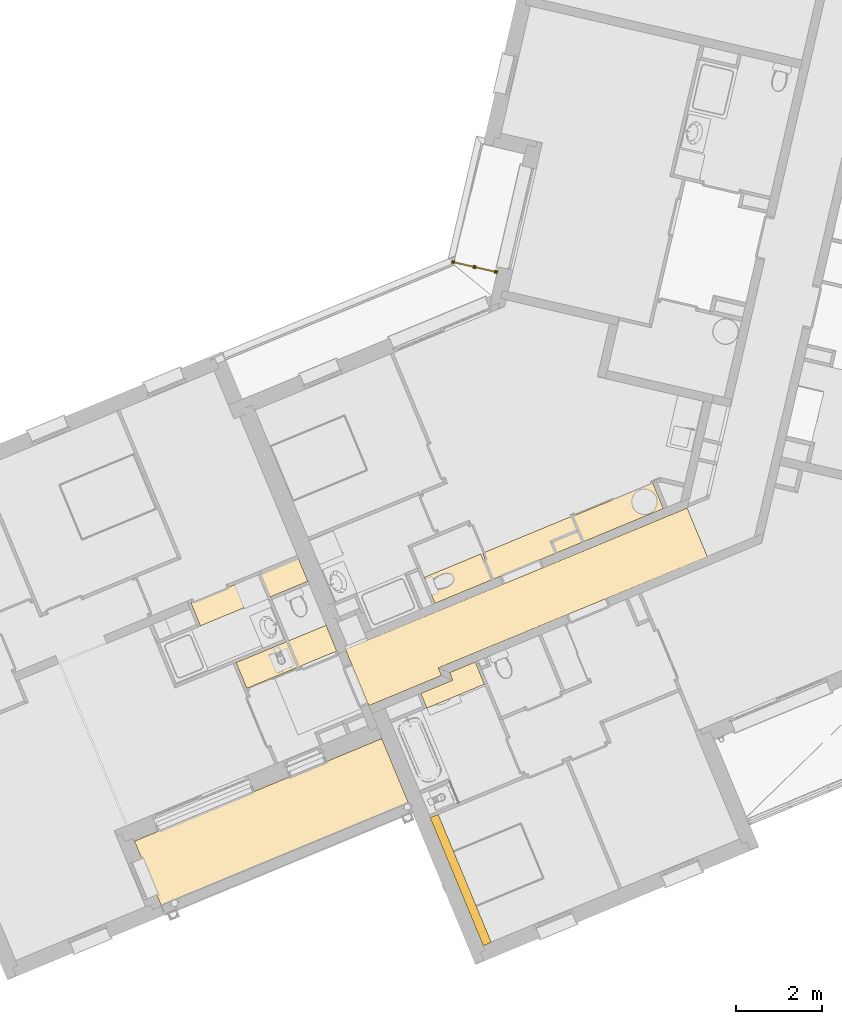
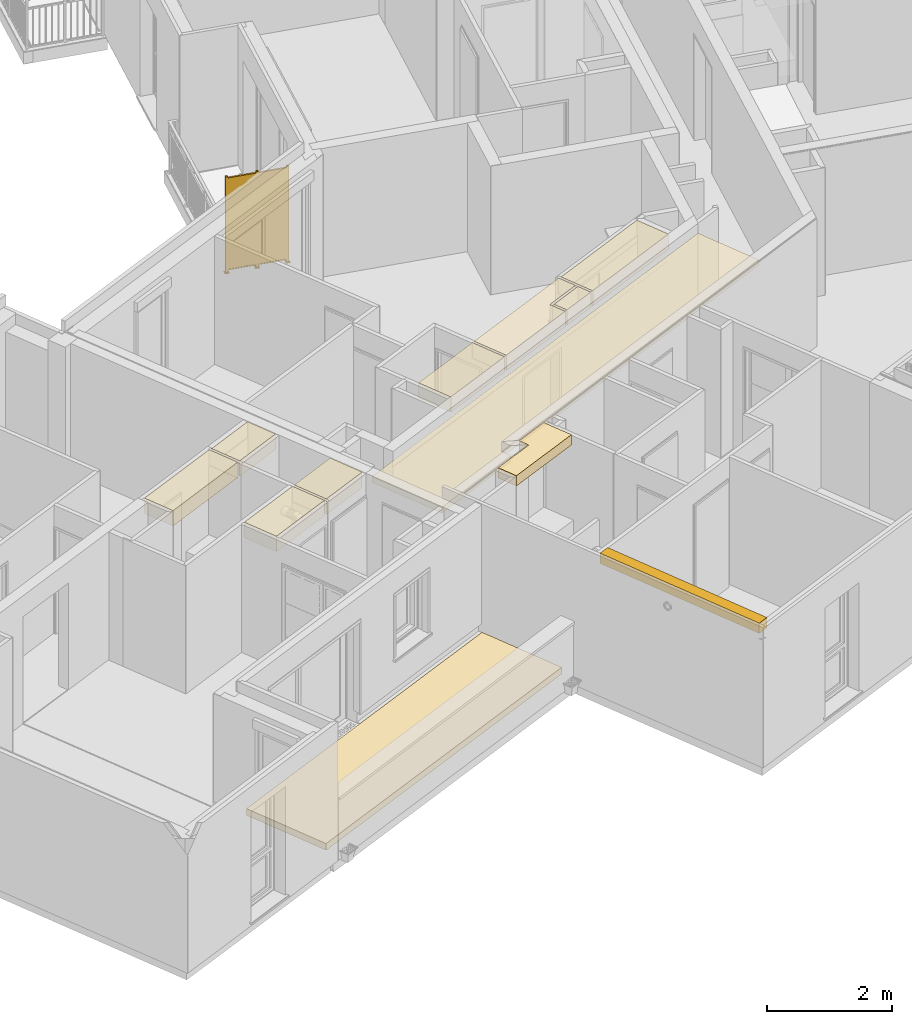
# One storey, part 57 of 91: 7 coverings, 1 railing.
"""IFC2X3 building model written with IfcOpenShell, lengths in metres."""

from ifc_helpers import new_model, entity, si_unit, converted_unit, derived_unit, money_unit, direction, frame, origin_with_axes, place, context, subcontext, project, spatial, faceted_brep, material, material_list, type_object, element, save


model = new_model("IFC2X3")

# Units and contexts
model_context = context("Model", 3, precision=1e-05, world=origin_with_axes(), true_north=direction((0.0, 1.0)))
body_context = subcontext(model_context, "Body", "Model", "MODEL_VIEW")
ifc_project = project(units=[si_unit("LENGTHUNIT", "METRE"), si_unit("AREAUNIT", "SQUARE_METRE"), si_unit("VOLUMEUNIT", "CUBIC_METRE"), converted_unit("PLANEANGLEUNIT", "DEGREE", entity("IfcPlaneAngleMeasure", 0.0174532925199), si_unit("PLANEANGLEUNIT", "RADIAN"), dimensions=[0, 0, 0, 0, 0, 0, 0]), si_unit("SOLIDANGLEUNIT", "STERADIAN"), money_unit("EUR"), converted_unit("TIMEUNIT", "Year", entity("IfcTimeMeasure", 31556926.0), si_unit("TIMEUNIT", "SECOND"), dimensions=[0, 0, 1, 0, 0, 0, 0]), si_unit("MASSUNIT", "GRAM", prefix="KILO"), si_unit("THERMODYNAMICTEMPERATUREUNIT", "DEGREE_CELSIUS"), si_unit("LUMINOUSINTENSITYUNIT", "LUMEN"), si_unit("ENERGYUNIT", "JOULE", prefix="MEGA"), derived_unit("THERMALCONDUCTANCEUNIT", [(si_unit("POWERUNIT", "WATT"), 1), (si_unit("LENGTHUNIT", "METRE"), -1), (si_unit("THERMODYNAMICTEMPERATUREUNIT", "KELVIN"), -1)]), derived_unit("SPECIFICHEATCAPACITYUNIT", [(si_unit("ENERGYUNIT", "JOULE"), 1), (si_unit("MASSUNIT", "GRAM", prefix="KILO"), -1), (si_unit("THERMODYNAMICTEMPERATUREUNIT", "KELVIN"), -1)]), derived_unit("MASSDENSITYUNIT", [(si_unit("MASSUNIT", "GRAM", prefix="KILO"), 1), (si_unit("VOLUMEUNIT", "CUBIC_METRE"), -1)])], contexts=[model_context])

# Site, building, storey
site_placement = place(None, origin_with_axes())
site = spatial("IfcSite", under=ifc_project, at=site_placement, Name="Site", CompositionType="ELEMENT")
building_placement = place(site_placement, origin_with_axes())
building = spatial("IfcBuilding", under=site, at=building_placement, Name="Bâtiment", CompositionType="ELEMENT")
storey_placement = place(building_placement, frame((0.0, 0.0, 5.44), z_axis=(0.0, 0.0, 1.0), x_axis=(1.0, 0.0, 0.0)))
storey = spatial("IfcBuildingStorey", under=building, at=storey_placement, Name="R+2", CompositionType="ELEMENT", Elevation=5.44)

# Coverings
ifc_material_1 = material(Name="Finition int - Plaque de plâtre")
covering_type_1 = type_object("IfcCoveringType", Name="Finition int - Plaque de plâtre 200", PredefinedType="CEILING")
covering_1_placement = place(storey_placement, frame((-21.2015068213, -24.8366893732, 2.5), z_axis=(0.0, 0.0, 1.0), x_axis=(1.0, 0.0, 0.0)))
element("IfcCovering", 1, at=covering_1_placement, inside=storey, type_object=covering_type_1, material=ifc_material_1, Name="Dalle_003", PredefinedType="CEILING", context=body_context, shape_type="Brep", body=[
    faceted_brep([(1.22787570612, -2.96046385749, 0.0), (0.0, 0.0, 0.0), (0.0, 0.0, -0.2), (1.22787570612, -2.96046385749, -0.2), (1.41261604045, -2.88384134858, 0.0), (0.184740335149, 0.0766225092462, 0.0), (0.184740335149, 0.0766225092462, -0.2), (1.41261604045, -2.88384134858, -0.2)], [[[0, 1, 2, 3]], [[4, 5, 1, 0]], [[1, 5, 6, 2]], [[7, 3, 2, 6]], [[4, 0, 3, 7]], [[5, 4, 7, 6]]]),
])
covering_2_placement = place(storey_placement, frame((-21.4111363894, -21.9552514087, 2.5), z_axis=(0.0, 0.0, 1.0), x_axis=(1.0, 0.0, 0.0)))
element("IfcCovering", 2, at=covering_2_placement, inside=storey, type_object=covering_type_1, material=ifc_material_1, Name="Dalle_003", PredefinedType="CEILING", context=body_context, shape_type="Brep", body=[
    faceted_brep([(-0.00949551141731, -0.00393834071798, 0.0), (-0.00949551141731, -0.00393834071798, -0.2), (0.131451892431, -0.343768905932, -0.2), (0.131451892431, -0.343768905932, 0.0), (0.729465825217, 0.302551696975, 0.0), (0.729465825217, 0.302551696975, -0.2), (0.656674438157, 0.47805502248, -0.2), (1.25061461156, 0.724396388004, -0.2), (1.46435340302, 0.209062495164, -0.2), (1.46435340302, 0.209062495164, 0.0), (1.25061461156, 0.724396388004, 0.0), (0.656674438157, 0.47805502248, 0.0)], [[[0, 1, 2, 3]], [[4, 5, 1, 0]], [[1, 5, 6, 7, 8, 2]], [[3, 2, 8, 9]], [[4, 0, 3, 9, 10, 11]], [[11, 6, 5, 4]], [[10, 7, 6, 11]], [[9, 8, 7, 10]]]),
])
ifc_material_2 = material(Name="Divers - Vide")
ifc_material_list_1 = material_list([ifc_material_2, ifc_material_1])
covering_type_2 = type_object("IfcCoveringType", Name="7 - Faux-plafond BA13  113", PredefinedType="CEILING")
covering_3_placement = place(storey_placement, frame((-23.1643591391, -20.9394273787, 2.32), z_axis=(0.0, 0.0, 1.0), x_axis=(1.0, 0.0, 0.0)))
element("IfcCovering", 3, at=covering_3_placement, inside=storey, type_object=covering_type_2, material=ifc_material_list_1, Name="Dalle_004", PredefinedType="CEILING", context=body_context, shape_type="Brep", body=[
    faceted_brep([(0.0, 0.0, -0.1), (0.540188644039, -1.3024193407, -0.1), (0.540188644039, -1.3024193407, 0.0), (0.0, 0.0, 0.0), (7.90866426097, 3.26936123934, -0.1), (8.37606384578, 2.14243973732, -0.1), (2.14853436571, -0.429651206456, -0.1), (2.22132567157, -0.605154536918, -0.1), (2.22132567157, -0.605154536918, 0.0), (7.90866426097, 3.26936123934, 0.0), (2.14853436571, -0.429651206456, 0.0), (8.37606384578, 2.14243973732, 0.0)], [[[0, 1, 2, 3]], [[1, 0, 4, 5, 6, 7]], [[1, 7, 8, 2]], [[9, 3, 2, 8, 10, 11]], [[4, 0, 3, 9]], [[5, 4, 9, 11]], [[6, 5, 11, 10]], [[7, 6, 10, 8]]]),
    faceted_brep([(0.0, 0.0, -0.1), (0.0, 0.0, -0.113), (0.540188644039, -1.3024193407, -0.113), (0.540188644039, -1.3024193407, -0.1), (7.90866426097, 3.26936123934, -0.1), (7.90866426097, 3.26936123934, -0.113), (8.37606384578, 2.14243973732, -0.113), (2.14853436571, -0.429651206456, -0.113), (2.22132567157, -0.605154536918, -0.113), (2.22132567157, -0.605154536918, -0.1), (2.14853436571, -0.429651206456, -0.1), (8.37606384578, 2.14243973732, -0.1)], [[[0, 1, 2, 3]], [[4, 5, 1, 0]], [[2, 1, 5, 6, 7, 8]], [[3, 2, 8, 9]], [[4, 0, 3, 9, 10, 11]], [[11, 6, 5, 4]], [[10, 7, 6, 11]], [[9, 8, 7, 10]]]),
])
covering_type_3 = type_object("IfcCoveringType", Name="Finition int - Plaque de plâtre 300", PredefinedType="CEILING")
covering_4_placement = place(storey_placement, frame((-21.3394909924, -19.2731644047, 2.5), z_axis=(0.0, 0.0, 1.0), x_axis=(1.0, 0.0, 0.0)))
element("IfcCovering", 4, at=covering_4_placement, inside=storey, type_object=covering_type_3, material=ifc_material_1, Name="Dalle_003", PredefinedType="CEILING", context=body_context, shape_type="Brep", body=[
    faceted_brep([(0.249023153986, -0.600406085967, -0.3), (1.55421361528, -0.0590680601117, -0.3), (1.55421361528, -0.0590680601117, 0.0), (0.249023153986, -0.600406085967, 0.0), (0.0, 0.0, -0.3), (1.30519046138, 0.541338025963, -0.3), (1.30519046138, 0.541338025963, 0.0), (0.0, 0.0, 0.0)], [[[0, 1, 2, 3]], [[4, 5, 1, 0]], [[5, 6, 2, 1]], [[3, 2, 6, 7]], [[3, 7, 4, 0]], [[7, 6, 5, 4]]]),
    faceted_brep([(1.59855129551, -0.0406786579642, -0.3), (3.02659407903, 0.551613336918, -0.3), (3.02659407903, 0.551613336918, 0.0), (1.59855129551, -0.0406786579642, 0.0), (2.90744607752, 0.838884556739, -0.3), (2.92583547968, 0.79454687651, -0.3), (1.34952814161, 0.559727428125, -0.3), (3.40014585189, 1.41023727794, -0.3), (3.53002100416, 1.09710241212, -0.3), (2.92583547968, 0.79454687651, 0.0), (2.90744607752, 0.838884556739, 0.0), (3.53002100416, 1.09710241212, 0.0), (3.40014585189, 1.41023727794, 0.0), (1.34952814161, 0.559727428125, 0.0)], [[[0, 1, 2, 3]], [[4, 5, 1, 0, 6, 7, 8]], [[5, 9, 2, 1]], [[3, 2, 9, 10, 11, 12, 13]], [[6, 0, 3, 13]], [[10, 9, 5, 4]], [[13, 12, 7, 6]], [[12, 11, 8, 7]], [[4, 8, 11, 10]]]),
    faceted_brep([(5.53265798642, 1.59102308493, -0.3), (5.28784907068, 2.1812684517, -0.3), (5.28784907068, 2.1812684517, 0.0), (5.53265798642, 1.59102308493, 0.0), (3.69350668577, 0.828220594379, -0.3), (3.44869776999, 1.41846596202, -0.3), (3.44869776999, 1.41846596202, 0.0), (3.69350668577, 0.828220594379, 0.0)], [[[0, 1, 2, 3]], [[4, 5, 1, 0]], [[5, 6, 2, 1]], [[3, 2, 6, 7]], [[3, 7, 4, 0]], [[7, 6, 5, 4]]]),
    faceted_brep([(3.5484104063, 1.05276473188, 0.0), (2.97017315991, 0.812936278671, 0.0), (3.07093175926, 0.570002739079, 0.0), (3.64916900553, 0.809831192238, 0.0), (3.5484104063, 1.05276473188, -0.3), (2.97017315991, 0.812936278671, -0.3), (3.07093175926, 0.570002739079, -0.3), (3.64916900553, 0.809831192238, -0.3)], [[[0, 1, 2, 3]], [[4, 5, 1, 0]], [[5, 6, 2, 1]], [[3, 2, 6, 7]], [[7, 4, 0, 3]], [[7, 6, 5, 4]]]),
])
covering_5_placement = place(storey_placement, frame((-25.6941485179, -21.2454192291, 2.5), z_axis=(0.0, 0.0, 1.0), x_axis=(1.0, 0.0, 0.0)))
element("IfcCovering", 5, at=covering_5_placement, inside=storey, type_object=covering_type_3, material=ifc_material_1, Name="Dalle_003", PredefinedType="CEILING", context=body_context, shape_type="Brep", body=[
    faceted_brep([(0.247035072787, -0.59561273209, -0.3), (1.41367028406, -0.111741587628, -0.3), (1.41367028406, -0.111741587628, 0.0), (0.247035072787, -0.59561273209, 0.0), (0.0, 0.0, -0.3), (1.16663521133, 0.483871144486, -0.3), (1.16663521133, 0.483871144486, 0.0), (0.0, 0.0, 0.0)], [[[0, 1, 2, 3]], [[4, 5, 1, 0]], [[5, 6, 2, 1]], [[3, 2, 6, 7]], [[3, 7, 4, 0]], [[7, 6, 5, 4]]]),
    faceted_brep([(2.08202356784, 0.863535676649, 0.0), (1.21097289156, 0.502260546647, 0.0), (1.45800796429, -0.0933521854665, 0.0), (2.32905864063, 0.26792294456, 0.0), (2.08202356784, 0.863535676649, -0.3), (1.21097289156, 0.502260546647, -0.3), (1.45800796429, -0.0933521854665, -0.3), (2.32905864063, 0.26792294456, -0.3)], [[[0, 1, 2, 3]], [[4, 5, 1, 0]], [[5, 6, 2, 1]], [[3, 2, 6, 7]], [[0, 3, 7, 4]], [[7, 6, 5, 4]]]),
])
covering_6_placement = place(storey_placement, frame((-26.7413488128, -19.8638391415, 2.5), z_axis=(0.0, 0.0, 1.0), x_axis=(1.0, 0.0, 0.0)))
element("IfcCovering", 6, at=covering_6_placement, inside=storey, type_object=covering_type_3, material=ifc_material_1, Name="Dalle_003", PredefinedType="CEILING", context=body_context, shape_type="Brep", body=[
    faceted_brep([(0.220672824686, -0.532052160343, -0.3), (1.79188936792, 0.119622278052, -0.3), (1.79188936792, 0.119622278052, 0.0), (0.220672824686, -0.532052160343, 0.0), (0.0, 0.0, -0.3), (1.57121654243, 0.651674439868, -0.3), (1.57121654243, 0.651674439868, 0.0), (0.0, 0.0, 0.0)], [[[0, 1, 2, 3]], [[4, 5, 1, 0]], [[5, 6, 2, 1]], [[3, 2, 6, 7]], [[3, 7, 4, 0]], [[7, 6, 5, 4]]]),
    faceted_brep([(1.62756234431, 0.67504430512, 0.0), (1.61555422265, 0.670063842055, 0.0), (1.83622704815, 0.138011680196, 0.0), (2.70727772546, 0.499286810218, 0.0), (2.49158536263, 1.01933085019, 0.0), (1.63254280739, 0.663036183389, 0.0), (1.62756234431, 0.67504430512, -0.3), (1.61555422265, 0.670063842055, -0.3), (1.83622704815, 0.138011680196, -0.3), (2.70727772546, 0.499286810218, -0.3), (2.49158536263, 1.01933085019, -0.3), (1.63254280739, 0.663036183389, -0.3)], [[[0, 1, 2, 3, 4, 5]], [[6, 7, 1, 0]], [[7, 8, 2, 1]], [[3, 2, 8, 9]], [[9, 10, 4, 3]], [[11, 5, 4, 10]], [[6, 0, 5, 11]], [[9, 8, 7, 6, 11, 10]]]),
])
ifc_material_3 = material(Name="Finition sol - Dalles terrasse")
ifc_material_list_2 = material_list([ifc_material_3, ifc_material_2])
covering_type_4 = type_object("IfcCoveringType", Name="6 -Dalles sur plots 130", PredefinedType="INSULATION")
covering_7_placement = place(storey_placement, frame((-28.0582424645, -25.3835528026, 0.24), z_axis=(0.0, 0.0, 1.0), x_axis=(1.0, 0.0, 0.0)))
element("IfcCovering", 7, at=covering_7_placement, inside=storey, type_object=covering_type_4, material=ifc_material_list_2, Name="Dalle_004", PredefinedType="INSULATION", context=body_context, shape_type="Brep", body=[
    faceted_brep([(6.35001699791, 0.894168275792, -0.05), (6.35001699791, 0.894168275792, 0.0), (0.62945091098, -1.47848157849, 0.0), (0.62945091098, -1.47848157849, -0.05), (5.73442163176, 2.37839654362, 0.0), (5.73442163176, 2.37839654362, -0.05), (0.0138555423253, 0.00574669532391, 9.76171143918e-10), (0.0138555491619, 0.00574667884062, -0.00499999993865), (0.01385554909, 0.00574667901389, -0.04), (0.0138555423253, 0.00574669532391, -0.05)], [[[0, 1, 2, 3]], [[4, 1, 0, 5]], [[1, 4, 6, 2]], [[3, 2, 6, 7, 8, 9]], [[5, 0, 3, 9]], [[4, 5, 9, 8, 7, 6]]]),
    faceted_brep([(6.35001699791, 0.894168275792, -0.13), (6.35001699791, 0.894168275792, -0.05), (0.62945091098, -1.47848157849, -0.05), (0.62945091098, -1.47848157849, -0.13), (5.73442163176, 2.37839654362, -0.05), (5.73442163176, 2.37839654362, -0.13), (0.0138555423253, 0.00574669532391, -0.05), (0.0138555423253, 0.00574669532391, -0.13)], [[[0, 1, 2, 3]], [[4, 1, 0, 5]], [[1, 4, 6, 2]], [[3, 2, 6, 7]], [[5, 0, 3, 7]], [[4, 5, 7, 6]]]),
])

# Railing
ifc_material_4 = material(Name="Métal - Acier")
ifc_material_5 = material(Name="Métal - Acier inoxidable")
ifc_material_6 = material(Name="Vitrage")
ifc_material_list_3 = material_list([ifc_material_4, ifc_material_4, ifc_material_5, ifc_material_6, ifc_material_4, ifc_material_5, ifc_material_6])
railing_type = type_object("IfcRailingType", Name="Type de garde-corps", PredefinedType="NOTDEFINED")
railing_placement = place(storey_placement, frame((-20.6060746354, -12.001900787, -0.00531189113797), z_axis=(0.0, 0.0, 1.0), x_axis=(0.997532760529, -0.0702025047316, 0.0)))
element("IfcRailing", 8, at=railing_placement, inside=storey, type_object=railing_type, material=ifc_material_list_3, Name="Pare-vue acier laqué+verre dépoli H=190", PredefinedType="NOTDEFINED", context=body_context, shape_type="Brep", body=[
    faceted_brep([(-0.0505157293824, 0.0333260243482, 0.01), (-0.0551932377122, 0.0036929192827, 0.01), (-0.0551932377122, 0.0036929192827, 1.88), (-0.0505157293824, 0.0333260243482, 1.88), (-0.0447972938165, 0.0374852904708, 0.01), (-0.0510339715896, -0.0020255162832, 0.01), (-0.0905447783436, 0.00421116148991, 0.01), (-0.0843081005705, 0.0437219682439, 0.01), (-0.0848263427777, 0.00837042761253, 0.01), (-0.0801488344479, 0.0380035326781, 0.01), (-0.0848263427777, 0.00837042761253, 1.88), (-0.0905447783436, 0.00421116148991, 1.88), (-0.0510339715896, -0.0020255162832, 1.88), (-0.0447972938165, 0.0374852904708, 1.88), (-0.0843081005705, 0.0437219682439, 1.88), (-0.0801488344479, 0.0380035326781, 1.88)], [[[0, 1, 2, 3]], [[4, 5, 6, 7], [8, 1, 0, 9]], [[1, 8, 10, 2]], [[11, 12, 13, 14], [3, 2, 10, 15]], [[9, 0, 3, 15]], [[5, 4, 13, 12]], [[6, 5, 12, 11]], [[7, 6, 11, 14]], [[4, 7, 14, 13]], [[8, 9, 15, 10]]]),
    faceted_brep([(-0.100945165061, 0.0665957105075, 0.0), (-0.100945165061, 0.0665957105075, 0.01), (-0.0219235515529, 0.0541223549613, 0.01), (-0.0219235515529, 0.0541223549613, 0.0), (-0.113418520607, -0.0124259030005, 0.0), (-0.113418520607, -0.0124259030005, 0.01), (-0.0343969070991, -0.0248992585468, 0.01), (-0.0343969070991, -0.0248992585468, 0.0)], [[[0, 1, 2, 3]], [[4, 5, 1, 0]], [[1, 5, 6, 2]], [[3, 2, 6, 7]], [[0, 3, 7, 4]], [[7, 6, 5, 4]]]),
    faceted_brep([(0.954545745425, -0.125320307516, 0.01), (0.949868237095, -0.154953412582, 0.01), (0.949868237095, -0.154953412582, 1.88), (0.954545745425, -0.125320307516, 1.88), (0.960264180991, -0.121161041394, 0.01), (0.954027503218, -0.160671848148, 0.01), (0.914516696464, -0.154435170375, 0.01), (0.920753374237, -0.114924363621, 0.01), (0.92023513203, -0.150275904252, 0.01), (0.92491264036, -0.120642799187, 0.01), (0.92023513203, -0.150275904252, 1.88), (0.914516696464, -0.154435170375, 1.88), (0.954027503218, -0.160671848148, 1.88), (0.960264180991, -0.121161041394, 1.88), (0.920753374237, -0.114924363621, 1.88), (0.92491264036, -0.120642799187, 1.88)], [[[0, 1, 2, 3]], [[4, 5, 6, 7], [8, 1, 0, 9]], [[1, 8, 10, 2]], [[11, 12, 13, 14], [3, 2, 10, 15]], [[9, 0, 3, 15]], [[5, 4, 13, 12]], [[6, 5, 12, 11]], [[7, 6, 11, 14]], [[4, 7, 14, 13]], [[8, 9, 15, 10]]]),
    faceted_brep([(0.904116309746, -0.0920506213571, 0.0), (0.904116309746, -0.0920506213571, 0.01), (0.983137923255, -0.104523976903, 0.01), (0.983137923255, -0.104523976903, 0.0), (0.8916429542, -0.171072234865, 0.0), (0.8916429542, -0.171072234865, 0.01), (0.970664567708, -0.183545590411, 0.01), (0.970664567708, -0.183545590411, 0.0)], [[[0, 1, 2, 3]], [[4, 5, 1, 0]], [[1, 5, 6, 2]], [[3, 2, 6, 7]], [[0, 3, 7, 4]], [[7, 6, 5, 4]]]),
    faceted_brep([(0.437198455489, -0.0436583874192, 0.05), (-0.0653322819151, 0.0356647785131, 0.05), (-0.0653322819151, 0.0356647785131, 1.85), (0.437198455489, -0.0436583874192, 1.85), (-0.0455768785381, 0.0325464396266, 1.83), (-0.0455768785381, 0.0325464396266, 0.07), (0.417443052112, -0.0405400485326, 0.07), (0.417443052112, -0.0405400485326, 1.83), (-0.070009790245, 0.00603167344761, 0.05), (0.432520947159, -0.0732914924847, 0.05), (-0.070009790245, 0.00603167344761, 1.85), (0.432520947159, -0.0732914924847, 1.85), (-0.050254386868, 0.00291333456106, 0.07), (-0.050254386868, 0.00291333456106, 1.83), (0.412765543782, -0.0701731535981, 0.07), (0.412765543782, -0.0701731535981, 1.83)], [[[0, 1, 2, 3], [4, 5, 6, 7]], [[8, 1, 0, 9]], [[10, 2, 1, 8]], [[3, 2, 10, 11]], [[0, 3, 11, 9]], [[12, 5, 4, 13]], [[14, 6, 5, 12]], [[7, 6, 14, 15]], [[4, 7, 15, 13]], [[10, 8, 9, 11], [14, 12, 13, 15]]]),
    faceted_brep([(0.41666346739, -0.0454788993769, 0.07), (-0.0463564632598, 0.0276075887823, 0.07), (-0.0463564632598, 0.0276075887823, 1.83), (0.41666346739, -0.0454788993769, 1.83), (-0.0494748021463, 0.00785218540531, 0.07), (0.413545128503, -0.0652343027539, 0.07), (-0.0494748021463, 0.00785218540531, 1.83), (0.413545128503, -0.0652343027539, 1.83)], [[[0, 1, 2, 3]], [[4, 1, 0, 5]], [[6, 2, 1, 4]], [[3, 2, 6, 7]], [[0, 3, 7, 5]], [[6, 4, 5, 7]]]),
    faceted_brep([(0.452015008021, -0.0459971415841, 0.01), (0.447337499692, -0.0756302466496, 0.01), (0.447337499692, -0.0756302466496, 1.88), (0.452015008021, -0.0459971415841, 1.88), (0.457733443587, -0.0418378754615, 0.01), (0.451496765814, -0.0813486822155, 0.01), (0.41198595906, -0.0751120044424, 0.01), (0.418222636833, -0.0356011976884, 0.01), (0.417704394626, -0.0709527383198, 0.01), (0.422381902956, -0.0413196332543, 0.01), (0.417704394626, -0.0709527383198, 1.88), (0.41198595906, -0.0751120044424, 1.88), (0.451496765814, -0.0813486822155, 1.88), (0.457733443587, -0.0418378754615, 1.88), (0.418222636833, -0.0356011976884, 1.88), (0.422381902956, -0.0413196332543, 1.88)], [[[0, 1, 2, 3]], [[4, 5, 6, 7], [8, 1, 0, 9]], [[1, 8, 10, 2]], [[11, 12, 13, 14], [3, 2, 10, 15]], [[9, 0, 3, 15]], [[5, 4, 13, 12]], [[6, 5, 12, 11]], [[7, 6, 11, 14]], [[4, 7, 14, 13]], [[8, 9, 15, 10]]]),
    faceted_brep([(0.401585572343, -0.0127274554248, 0.0), (0.401585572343, -0.0127274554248, 0.01), (0.480607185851, -0.025200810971, 0.01), (0.480607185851, -0.025200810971, 0.0), (0.389112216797, -0.0917490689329, 0.0), (0.389112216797, -0.0917490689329, 0.01), (0.468133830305, -0.104222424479, 0.01), (0.468133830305, -0.104222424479, 0.0)], [[[0, 1, 2, 3]], [[4, 5, 1, 0]], [[1, 5, 6, 2]], [[3, 2, 6, 7]], [[0, 3, 7, 4]], [[7, 6, 5, 4]]]),
    faceted_brep([(0.939729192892, -0.122981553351, 0.05), (0.437198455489, -0.0436583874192, 0.05), (0.437198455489, -0.0436583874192, 1.85), (0.939729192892, -0.122981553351, 1.85), (0.456953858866, -0.0467767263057, 1.83), (0.456953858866, -0.0467767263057, 0.07), (0.919973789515, -0.119863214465, 0.07), (0.919973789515, -0.119863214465, 1.83), (0.432520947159, -0.0732914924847, 0.05), (0.935051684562, -0.152614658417, 0.05), (0.432520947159, -0.0732914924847, 1.85), (0.935051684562, -0.152614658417, 1.85), (0.452276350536, -0.0764098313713, 0.07), (0.452276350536, -0.0764098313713, 1.83), (0.915296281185, -0.14949631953, 0.07), (0.915296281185, -0.14949631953, 1.83)], [[[0, 1, 2, 3], [4, 5, 6, 7]], [[8, 1, 0, 9]], [[10, 2, 1, 8]], [[3, 2, 10, 11]], [[0, 3, 11, 9]], [[12, 5, 4, 13]], [[14, 6, 5, 12]], [[7, 6, 14, 15]], [[4, 7, 15, 13]], [[10, 8, 9, 11], [14, 12, 13, 15]]]),
    faceted_brep([(0.919194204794, -0.124802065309, 0.07), (0.456174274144, -0.05171557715, 0.07), (0.456174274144, -0.05171557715, 1.83), (0.919194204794, -0.124802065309, 1.83), (0.453055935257, -0.071470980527, 0.07), (0.916075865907, -0.144557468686, 0.07), (0.453055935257, -0.071470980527, 1.83), (0.916075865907, -0.144557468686, 1.83)], [[[0, 1, 2, 3]], [[4, 1, 0, 5]], [[6, 2, 1, 4]], [[3, 2, 6, 7]], [[0, 3, 7, 5]], [[6, 4, 5, 7]]]),
])

save(model, "model.ifc")
